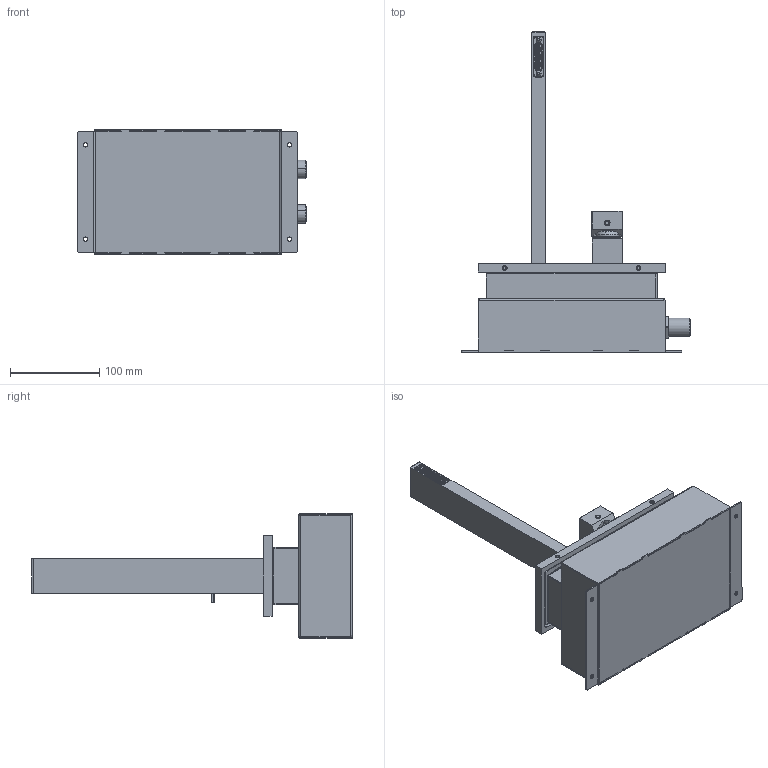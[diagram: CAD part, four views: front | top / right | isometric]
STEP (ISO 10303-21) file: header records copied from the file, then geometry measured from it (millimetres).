
FILE_DESCRIPTION (( 'STEP AP203' ), '1' );
FILE_NAME ('H5T10.STEP', '2023-10-17T12:22:17', ( '' ), ( '' ), 'SwSTEP 2.0', 'SolidWorks 2021', '' );
FILE_SCHEMA (( 'CONFIG_CONTROL_DESIGN' ));
Length unit declared in the file: millimetre
Products named in the file (35): EU0604_0; DADO12H4; C13.00.0017; GRANO M5X8 ACCIAIO; H5T10; EU0495_1; EU1281_2; EU0620_00; AS467_02; GRANO M5x6 ACCIAIO; AS468_00; VITETC5x40; EU0103_0; DADGAB5x83; EU0134_0; EU1404_0; EU0759_0; EU0608_0; C47.00.0023.01; OR765178ACS; EU1280_0; EU1282_0; VITEB3X8; VITETC4X16; RONDFIB1; EU0133_0; CARTBAG016; C24.0120.00.1; VITETC4X10; EU1405_0; EU0222_1; EU0402_1; EU0109_0; EU0119_2; EU1283_0
Assembly tree (50 placements, depth 4):
  H5T10
    EU0103_0
    C24.0120.00.1
    EU0109_0
    EU0119_2
    EU0402_1
    EU0604_0
    VITETC4X10  x2
    EU1404_0
    VITETC4X16  x4
    OR765178ACS
    EU0620_00
      EU0608_0
      EU0134_0
      EU0133_0
      OR765178ACS
    EU0759_0
    EU0495_1
    C47.00.0023.01
    RONDFIB1
    GRANO M5X8 ACCIAIO  x2
    EU0222_1
    C13.00.0017
    EU1405_0
    VITEB3X8  x2
    AS468_00
      AS467_02
        EU1281_2
        EU1282_0
      EU1283_0
      VITETC5x40  x2
      RONDFIB1  x2
      DADGAB5x83  x6
      EU1280_0  x2
      DADO12H4  x2
    CARTBAG016
  GRANO M5x6 ACCIAIO
Bounding box: 257 x 360 x 140 mm (x, y, z)
Volume: 511432.4 mm3; surface area: 428895.3 mm2
Topology: 46 solids, 56 shells, 3207 faces, 8922 edges, 5767 vertices
Faces by surface type: plane 1513, cylinder 1180, cone 222, torus 158, bspline 114, sphere 20
Entity records: 95258 total; most frequent: CARTESIAN_POINT 22916, ORIENTED_EDGE 14208, DIRECTION 13923, EDGE_CURVE 7334, AXIS2_PLACEMENT_3D 4927, VERTEX_POINT 4771, VECTOR 4069, LINE 4069
